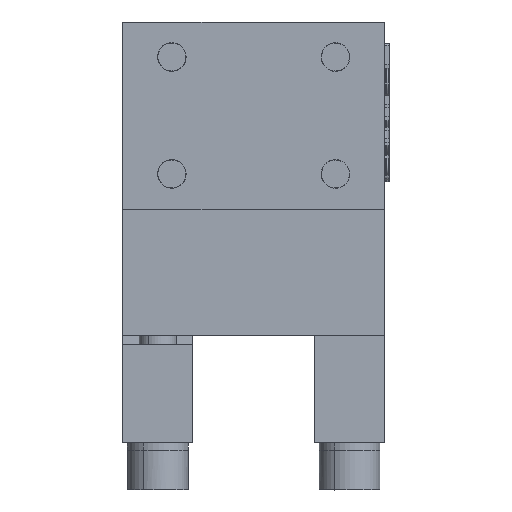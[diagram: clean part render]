
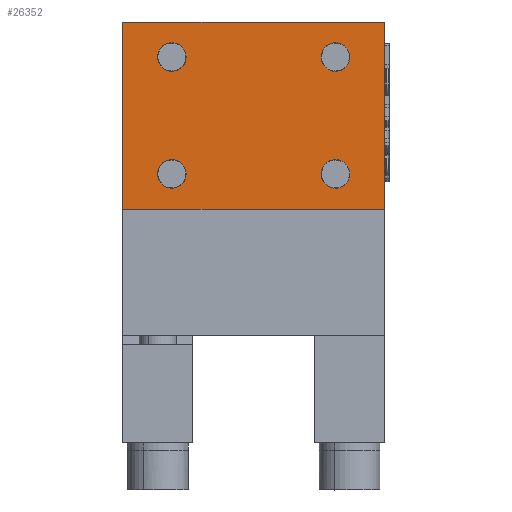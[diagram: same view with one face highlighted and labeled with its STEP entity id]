
A CAD part, left-side view. The second image highlights one B-rep face of the part: STEP entity #26352.
In plain terms, the highlighted planar face has unit normal (-1, 0, 0).
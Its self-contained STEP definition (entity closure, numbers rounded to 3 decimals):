
#24723=CARTESIAN_POINT('Vertex',(-38.,-28.,67.)) ;
#24726=CARTESIAN_POINT('Line Origine',(-38.,-28.,47.)) ;
#24730=CARTESIAN_POINT('Vertex',(-38.,-28.,27.)) ;
#24849=CARTESIAN_POINT('Vertex',(-38.,28.,27.)) ;
#24852=CARTESIAN_POINT('Line Origine',(-38.,28.,47.)) ;
#24856=CARTESIAN_POINT('Vertex',(-38.,28.,67.)) ;
#26252=CARTESIAN_POINT('Line Origine',(-38.,0.,67.)) ;
#26264=CARTESIAN_POINT('Axis2P3D Location',(-38.,0.,27.)) ;
#26269=CARTESIAN_POINT('Line Origine',(-38.,0.,27.)) ;
#26280=CARTESIAN_POINT('Axis2P3D Location',(-38.,-17.5,59.5)) ;
#26284=CARTESIAN_POINT('Vertex',(-38.,-14.823,58.038)) ;
#26286=CARTESIAN_POINT('Vertex',(-38.,-20.177,60.962)) ;
#26289=CARTESIAN_POINT('Axis2P3D Location',(-38.,-17.5,59.5)) ;
#26298=CARTESIAN_POINT('Axis2P3D Location',(-38.,17.5,59.5)) ;
#26302=CARTESIAN_POINT('Vertex',(-38.,14.823,60.962)) ;
#26304=CARTESIAN_POINT('Vertex',(-38.,20.177,58.038)) ;
#26307=CARTESIAN_POINT('Axis2P3D Location',(-38.,17.5,59.5)) ;
#26316=CARTESIAN_POINT('Axis2P3D Location',(-38.,-17.5,34.5)) ;
#26320=CARTESIAN_POINT('Vertex',(-38.,-20.177,35.962)) ;
#26322=CARTESIAN_POINT('Vertex',(-38.,-14.823,33.038)) ;
#26325=CARTESIAN_POINT('Axis2P3D Location',(-38.,-17.5,34.5)) ;
#26334=CARTESIAN_POINT('Axis2P3D Location',(-38.,17.5,34.5)) ;
#26338=CARTESIAN_POINT('Vertex',(-38.,14.823,35.962)) ;
#26340=CARTESIAN_POINT('Vertex',(-38.,20.177,33.038)) ;
#26343=CARTESIAN_POINT('Axis2P3D Location',(-38.,17.5,34.5)) ;
#24727=DIRECTION('Vector Direction',(0.,0.,1.)) ;
#24853=DIRECTION('Vector Direction',(0.,0.,1.)) ;
#26253=DIRECTION('Vector Direction',(0.,1.,0.)) ;
#26265=DIRECTION('Axis2P3D Direction',(-1.,0.,0.)) ;
#26266=DIRECTION('Axis2P3D XDirection',(0.,0.,1.)) ;
#26270=DIRECTION('Vector Direction',(0.,1.,0.)) ;
#26281=DIRECTION('Axis2P3D Direction',(-1.,0.,0.)) ;
#26290=DIRECTION('Axis2P3D Direction',(-1.,0.,0.)) ;
#26299=DIRECTION('Axis2P3D Direction',(-1.,0.,0.)) ;
#26308=DIRECTION('Axis2P3D Direction',(-1.,0.,0.)) ;
#26317=DIRECTION('Axis2P3D Direction',(-1.,0.,0.)) ;
#26326=DIRECTION('Axis2P3D Direction',(-1.,0.,0.)) ;
#26335=DIRECTION('Axis2P3D Direction',(-1.,0.,0.)) ;
#26344=DIRECTION('Axis2P3D Direction',(-1.,0.,0.)) ;
#26267=AXIS2_PLACEMENT_3D('Plane Axis2P3D',#26264,#26265,#26266) ;
#26282=AXIS2_PLACEMENT_3D('Circle Axis2P3D',#26280,#26281,$) ;
#26291=AXIS2_PLACEMENT_3D('Circle Axis2P3D',#26289,#26290,$) ;
#26300=AXIS2_PLACEMENT_3D('Circle Axis2P3D',#26298,#26299,$) ;
#26309=AXIS2_PLACEMENT_3D('Circle Axis2P3D',#26307,#26308,$) ;
#26318=AXIS2_PLACEMENT_3D('Circle Axis2P3D',#26316,#26317,$) ;
#26327=AXIS2_PLACEMENT_3D('Circle Axis2P3D',#26325,#26326,$) ;
#26336=AXIS2_PLACEMENT_3D('Circle Axis2P3D',#26334,#26335,$) ;
#26345=AXIS2_PLACEMENT_3D('Circle Axis2P3D',#26343,#26344,$) ;
#26275=ORIENTED_EDGE('',*,*,#26273,.F.) ;
#26276=ORIENTED_EDGE('',*,*,#24732,.T.) ;
#26277=ORIENTED_EDGE('',*,*,#26256,.T.) ;
#26278=ORIENTED_EDGE('',*,*,#24858,.F.) ;
#26295=ORIENTED_EDGE('',*,*,#26288,.F.) ;
#26296=ORIENTED_EDGE('',*,*,#26293,.F.) ;
#26313=ORIENTED_EDGE('',*,*,#26306,.F.) ;
#26314=ORIENTED_EDGE('',*,*,#26311,.F.) ;
#26331=ORIENTED_EDGE('',*,*,#26324,.F.) ;
#26332=ORIENTED_EDGE('',*,*,#26329,.F.) ;
#26349=ORIENTED_EDGE('',*,*,#26342,.F.) ;
#26350=ORIENTED_EDGE('',*,*,#26347,.F.) ;
#26297=FACE_BOUND('',#26294,.T.) ;
#26315=FACE_BOUND('',#26312,.T.) ;
#26333=FACE_BOUND('',#26330,.T.) ;
#26351=FACE_BOUND('',#26348,.T.) ;
#24728=VECTOR('Line Direction',#24727,1.) ;
#24854=VECTOR('Line Direction',#24853,1.) ;
#26254=VECTOR('Line Direction',#26253,1.) ;
#26271=VECTOR('Line Direction',#26270,1.) ;
#26352=ADVANCED_FACE('EGT_173_RD30_K40_VLR_SIM_ET.1\\PartBody',(#26279,#26297,#26315,#26333,#26351),#26268,.T.) ;
#26283=CIRCLE('generated circle',#26282,3.05) ;
#26292=CIRCLE('generated circle',#26291,3.05) ;
#26301=CIRCLE('generated circle',#26300,3.05) ;
#26310=CIRCLE('generated circle',#26309,3.05) ;
#26319=CIRCLE('generated circle',#26318,3.05) ;
#26328=CIRCLE('generated circle',#26327,3.05) ;
#26337=CIRCLE('generated circle',#26336,3.05) ;
#26346=CIRCLE('generated circle',#26345,3.05) ;
#24732=EDGE_CURVE('',#24731,#24724,#24729,.T.) ;
#24858=EDGE_CURVE('',#24850,#24857,#24855,.T.) ;
#26256=EDGE_CURVE('',#24724,#24857,#26255,.T.) ;
#26273=EDGE_CURVE('',#24731,#24850,#26272,.T.) ;
#26288=EDGE_CURVE('',#26285,#26287,#26283,.T.) ;
#26293=EDGE_CURVE('',#26287,#26285,#26292,.T.) ;
#26306=EDGE_CURVE('',#26303,#26305,#26301,.T.) ;
#26311=EDGE_CURVE('',#26305,#26303,#26310,.T.) ;
#26324=EDGE_CURVE('',#26321,#26323,#26319,.T.) ;
#26329=EDGE_CURVE('',#26323,#26321,#26328,.T.) ;
#26342=EDGE_CURVE('',#26339,#26341,#26337,.T.) ;
#26347=EDGE_CURVE('',#26341,#26339,#26346,.T.) ;
#26274=EDGE_LOOP('',(#26275,#26276,#26277,#26278)) ;
#26294=EDGE_LOOP('',(#26295,#26296)) ;
#26312=EDGE_LOOP('',(#26313,#26314)) ;
#26330=EDGE_LOOP('',(#26331,#26332)) ;
#26348=EDGE_LOOP('',(#26349,#26350)) ;
#26279=FACE_OUTER_BOUND('',#26274,.T.) ;
#24729=LINE('Line',#24726,#24728) ;
#24855=LINE('Line',#24852,#24854) ;
#26255=LINE('Line',#26252,#26254) ;
#26272=LINE('Line',#26269,#26271) ;
#26268=PLANE('',#26267) ;
#24724=VERTEX_POINT('',#24723) ;
#24731=VERTEX_POINT('',#24730) ;
#24850=VERTEX_POINT('',#24849) ;
#24857=VERTEX_POINT('',#24856) ;
#26285=VERTEX_POINT('',#26284) ;
#26287=VERTEX_POINT('',#26286) ;
#26303=VERTEX_POINT('',#26302) ;
#26305=VERTEX_POINT('',#26304) ;
#26321=VERTEX_POINT('',#26320) ;
#26323=VERTEX_POINT('',#26322) ;
#26339=VERTEX_POINT('',#26338) ;
#26341=VERTEX_POINT('',#26340) ;
